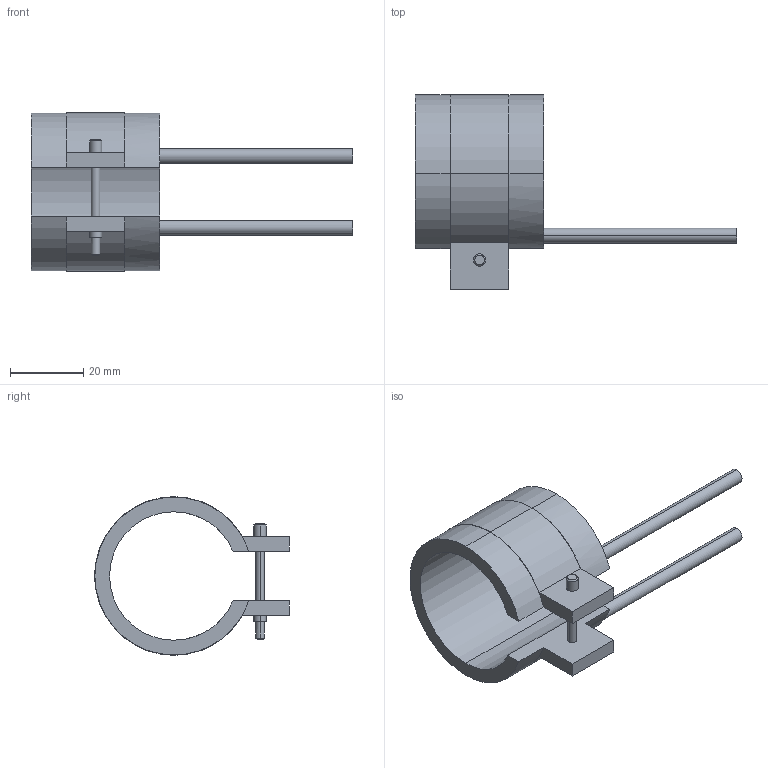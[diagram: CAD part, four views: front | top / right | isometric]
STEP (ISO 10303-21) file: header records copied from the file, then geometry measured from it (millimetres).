
FILE_DESCRIPTION(('CATIA V5 STEP Exchange'),'2;1');
FILE_NAME('C:\Users\Utente\Desktop\IO LAVORO\3D X SITO CF\X SITO\PLASTICA\RF2\14035035.stp','2021-03-31T11:37:07+00:00',('none'),('none'),'CATIA Version 5 Release 20 GA (IN-10)','CATIA V5 STEP AP203','none');
FILE_SCHEMA(('CONFIG_CONTROL_DESIGN'));
Length unit declared in the file: millimetre
Products named in the file (1): 14035035
Bounding box: 87.5 x 53.1 x 43.2 mm (x, y, z)
Volume: 18369.1 mm3; surface area: 11249.1 mm2
Topology: 1 solids, 1 shells, 45 faces, 116 edges, 76 vertices
Faces by surface type: cylinder 24, plane 17, cone 4
Entity records: 1412 total; most frequent: CARTESIAN_POINT 288, ORIENTED_EDGE 232, DIRECTION 195, EDGE_CURVE 116, AXIS2_PLACEMENT_3D 103, VERTEX_POINT 76, CIRCLE 61, VECTOR 52
